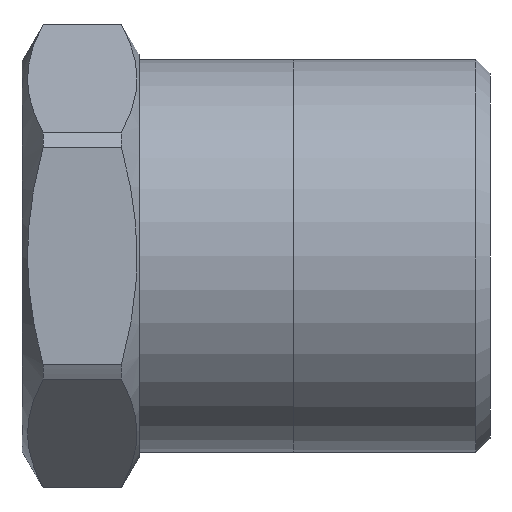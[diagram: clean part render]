
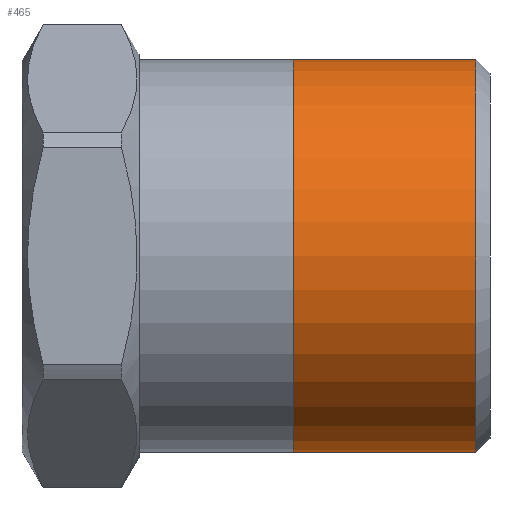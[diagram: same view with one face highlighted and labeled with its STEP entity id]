
A CAD part, left-side view. The second image highlights one B-rep face of the part: STEP entity #465.
In plain terms, the highlighted cylindrical face has radius 10.668 mm (diameter 21.336 mm), a full revolution.
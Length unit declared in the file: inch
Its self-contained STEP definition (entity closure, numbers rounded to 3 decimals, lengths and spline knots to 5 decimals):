
#28=CYLINDRICAL_SURFACE('',#536,0.42);
#59=CIRCLE('',#534,0.42);
#60=CIRCLE('',#535,0.42);
#61=CIRCLE('',#537,0.42);
#62=CIRCLE('',#538,0.42);
#92=FACE_OUTER_BOUND('',#121,.T.);
#121=EDGE_LOOP('',(#412,#413,#414,#415,#416,#417));
#146=LINE('',#843,#167);
#167=VECTOR('',#673,0.42);
#222=VERTEX_POINT('',#836);
#223=VERTEX_POINT('',#838);
#224=VERTEX_POINT('',#842);
#225=VERTEX_POINT('',#844);
#288=EDGE_CURVE('',#222,#223,#59,.T.);
#289=EDGE_CURVE('',#223,#222,#60,.T.);
#290=EDGE_CURVE('',#223,#224,#146,.T.);
#291=EDGE_CURVE('',#224,#225,#61,.T.);
#292=EDGE_CURVE('',#225,#224,#62,.T.);
#412=ORIENTED_EDGE('',*,*,#288,.F.);
#413=ORIENTED_EDGE('',*,*,#289,.F.);
#414=ORIENTED_EDGE('',*,*,#290,.T.);
#415=ORIENTED_EDGE('',*,*,#291,.T.);
#416=ORIENTED_EDGE('',*,*,#292,.T.);
#417=ORIENTED_EDGE('',*,*,#290,.F.);
#465=ADVANCED_FACE('',(#92),#28,.T.);
#534=AXIS2_PLACEMENT_3D('',#839,#667,#668);
#535=AXIS2_PLACEMENT_3D('',#840,#669,#670);
#536=AXIS2_PLACEMENT_3D('',#841,#671,#672);
#537=AXIS2_PLACEMENT_3D('',#845,#674,#675);
#538=AXIS2_PLACEMENT_3D('',#846,#676,#677);
#667=DIRECTION('center_axis',(0.,-1.,0.));
#668=DIRECTION('ref_axis',(0.,0.,1.));
#669=DIRECTION('center_axis',(0.,-1.,0.));
#670=DIRECTION('ref_axis',(0.,0.,1.));
#671=DIRECTION('center_axis',(0.,-1.,0.));
#672=DIRECTION('ref_axis',(0.,0.,-1.));
#673=DIRECTION('',(0.,1.,0.));
#674=DIRECTION('center_axis',(0.,-1.,0.));
#675=DIRECTION('ref_axis',(1.,0.,0.));
#676=DIRECTION('center_axis',(0.,-1.,0.));
#677=DIRECTION('ref_axis',(1.,0.,0.));
#836=CARTESIAN_POINT('',(0.,0.03,-0.42));
#838=CARTESIAN_POINT('',(0.,0.03,0.42));
#839=CARTESIAN_POINT('Origin',(0.,0.03,0.));
#840=CARTESIAN_POINT('Origin',(0.,0.03,0.));
#841=CARTESIAN_POINT('Origin',(0.,0.21,0.));
#842=CARTESIAN_POINT('',(0.,0.42,0.42));
#843=CARTESIAN_POINT('',(0.,0.21,0.42));
#844=CARTESIAN_POINT('',(0.,0.42,-0.42));
#845=CARTESIAN_POINT('Origin',(0.,0.42,0.));
#846=CARTESIAN_POINT('Origin',(0.,0.42,0.));
